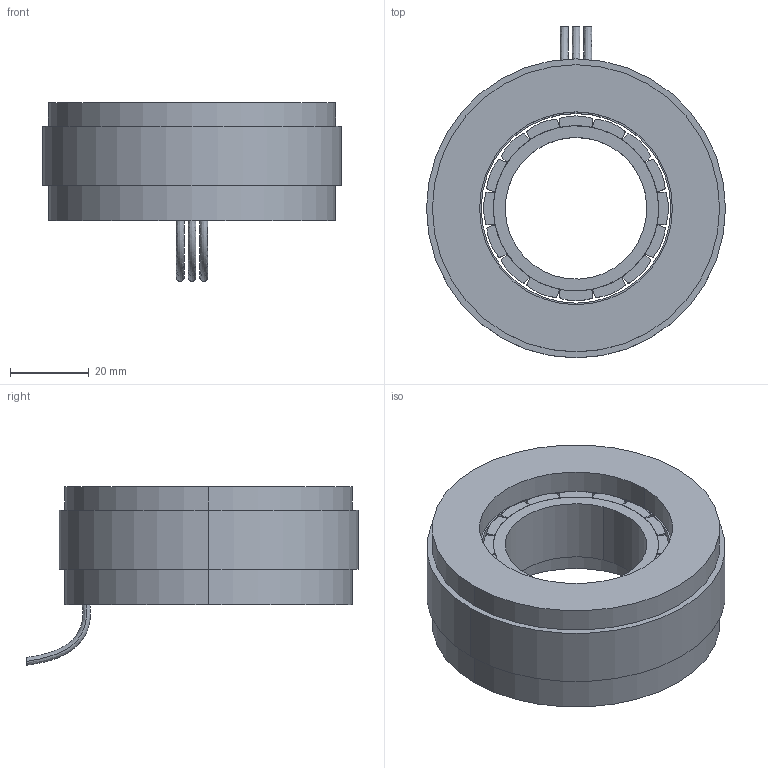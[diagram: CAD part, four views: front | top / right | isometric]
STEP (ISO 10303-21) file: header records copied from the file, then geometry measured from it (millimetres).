
FILE_DESCRIPTION (( 'STEP AP203' ), '1' );
FILE_NAME ('KMF-076AMNN 軞蚾饜芞潠芞.STEP', '2020-05-15T05:32:37', ( '' ), ( '' ), 'SwSTEP 2.0', 'SolidWorks 2016', '' );
FILE_SCHEMA (( 'CONFIG_CONTROL_DESIGN' ));
Length unit declared in the file: millimetre
Products named in the file (5): KMF01003401 棠詩; KMF010A2001 隅赽郪璃潠芞; KMF010P1301 棠濎; KMF-076AMNN 軞蚾饜芞潠芞; KMF010A3001 蛌赽郪璃
Assembly tree (19 placements, depth 3):
  KMF-076AMNN 軞蚾饜芞潠芞
    KMF010A2001 隅赽郪璃潠芞
    KMF010A3001 蛌赽郪璃
      KMF010P1301 棠濎
      KMF01003401 棠詩  x16
Bounding box: 76 x 84.39 x 45.43 mm (x, y, z)
Volume: 86686.8 mm3; surface area: 28326.2 mm2
Topology: 18 solids, 18 shells, 193 faces, 450 edges, 300 vertices
Faces by surface type: cylinder 112, plane 75, bspline 6
Entity records: 2627 total; most frequent: CARTESIAN_POINT 684, DIRECTION 260, ORIENTED_EDGE 180, AXIS2_PLACEMENT_3D 116, EDGE_CURVE 90, CALENDAR_DATE 63, DATE_AND_TIME 63, COORDINATED_UNIVERSAL_TIME_OFFSET 63
